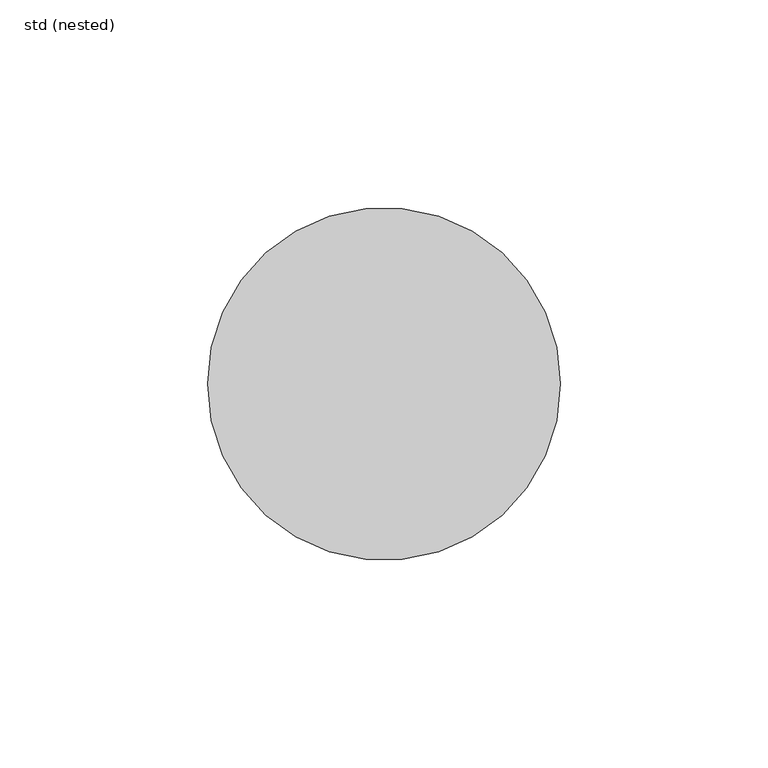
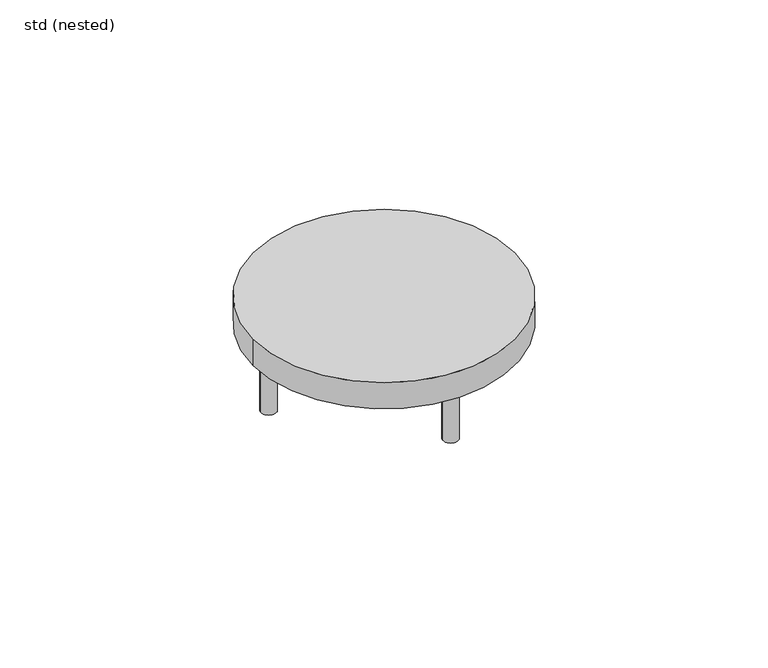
"""IFC4 building model written with IfcOpenShell, lengths in millimetres: sanitary terminal geometry, ZZZ_do not use_PF_ST_fire protection inset_ACO : std (nested)."""

from ifc_helpers import new_model, si_unit, point, frame, frame_2d, origin, origin_with_axes, origin_2d, place, context, project, spatial, circle_curve, trimmed, segment, composite_curve, outline, extrude, source, transform, mapped, element, save


def std_nested_937152f7(model_context):
    return source(origin(), model_context, "Body", "SweptSolid", [
        extrude(outline(composite_curve([segment(trimmed(circle_curve(frame_2d((37.5, 0.0)), 2.5), [point((35.0, 0.0))], [point((40.0, 0.0))], False, "CARTESIAN"), True, "CONTINUOUS"), segment(trimmed(circle_curve(frame_2d((37.5, 0.0)), 2.5), [point((40.0, 0.0))], [point((35.0, 0.0))], False, "CARTESIAN"), True, "CONTINUOUS")], self_intersect=False)), origin_with_axes(), (0.0, 0.0, 1.0), 17.0),
        extrude(outline(composite_curve([segment(trimmed(circle_curve(frame_2d((0.0, 37.5)), 2.5), [point((-2.5, 37.5))], [point((2.5, 37.5))], False, "CARTESIAN"), True, "CONTINUOUS"), segment(trimmed(circle_curve(frame_2d((0.0, 37.5)), 2.5), [point((2.5, 37.5))], [point((-2.5, 37.5))], False, "CARTESIAN"), True, "CONTINUOUS")], self_intersect=False)), origin_with_axes(), (0.0, 0.0, 1.0), 17.0),
        extrude(outline(composite_curve([segment(trimmed(circle_curve(frame_2d((0.0, -37.5)), 2.5), [point((-2.5, -37.5))], [point((2.5, -37.5))], False, "CARTESIAN"), True, "CONTINUOUS"), segment(trimmed(circle_curve(frame_2d((0.0, -37.5)), 2.5), [point((2.5, -37.5))], [point((-2.5, -37.5))], False, "CARTESIAN"), True, "CONTINUOUS")], self_intersect=False)), origin_with_axes(), (0.0, 0.0, 1.0), 17.0),
        extrude(outline(composite_curve([segment(trimmed(circle_curve(frame_2d((-37.5, 0.0)), 2.5), [point((-40.0, 0.0))], [point((-35.0, 0.0))], False, "CARTESIAN"), True, "CONTINUOUS"), segment(trimmed(circle_curve(frame_2d((-37.5, 0.0)), 2.5), [point((-35.0, 0.0))], [point((-40.0, 0.0))], False, "CARTESIAN"), True, "CONTINUOUS")], self_intersect=False)), origin_with_axes(), (0.0, 0.0, 1.0), 17.0),
        extrude(outline(composite_curve([segment(trimmed(circle_curve(origin_2d(), 42.5), [point((-42.5, 0.0))], [point((42.5, 0.0))], False, "CARTESIAN"), True, "CONTINUOUS"), segment(trimmed(circle_curve(origin_2d(), 42.5), [point((42.5, 0.0))], [point((-42.5, 0.0))], False, "CARTESIAN"), True, "CONTINUOUS")], self_intersect=False)), frame((0.0, 0.0, 17.0), z_axis=(0.0, 0.0, 1.0), x_axis=(1.0, 0.0, 0.0)), (0.0, 0.0, 1.0), 9.0),
    ])


if __name__ == "__main__":
    model = new_model("IFC4")
    model_context = context("Model", 3, world=origin())
    ifc_project = project(units=[si_unit("LENGTHUNIT", "METRE", prefix="MILLI")], contexts=[model_context])
    site = spatial("IfcSite", under=ifc_project)
    building = spatial("IfcBuilding", under=site)
    placement = place(None, origin())
    std_nested_shape = std_nested_937152f7(model_context)
    element("IfcSanitaryTerminal", 1, ObjectType="ZZZ_do not use_PF_ST_fire protection inset_ACO : std (nested)", at=placement, inside=building, context=model_context, shape_type="MappedRepresentation", body=[
        mapped(std_nested_shape, transform((0.0, 0.0, 0.0), x_axis=(1.0, 0.0, 0.0), y_axis=(0.0, 1.0, 0.0), z_axis=(0.0, 0.0, 1.0))),
    ])
    save(model, "model.ifc")
